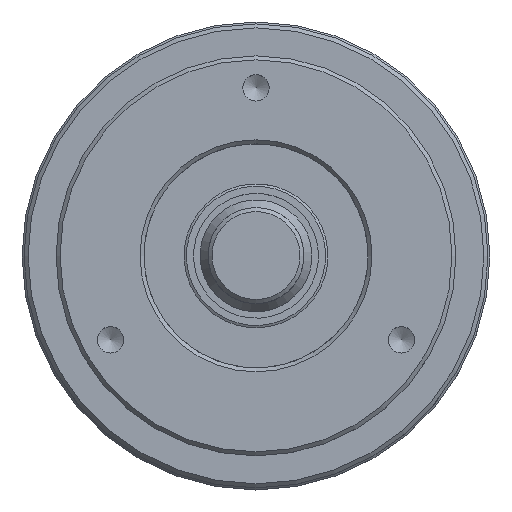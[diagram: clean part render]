
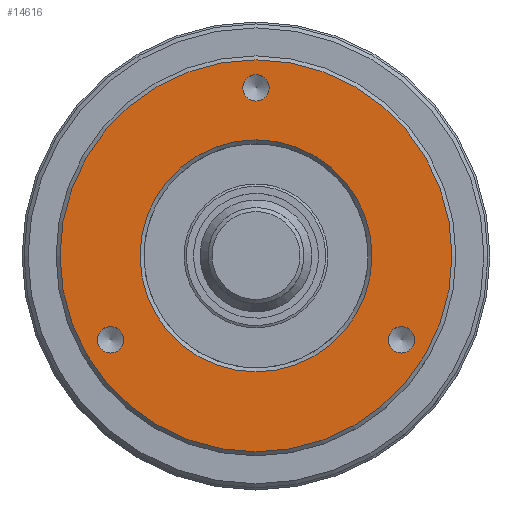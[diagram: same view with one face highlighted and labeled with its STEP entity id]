
A CAD part, top view. The second image highlights one B-rep face of the part: STEP entity #14616.
In plain terms, the highlighted planar face has unit normal (0, 0, 1).
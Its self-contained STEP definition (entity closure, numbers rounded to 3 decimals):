
#35 = EDGE_LOOP ( 'NONE', ( #1729 ) ) ;
#161 = FACE_BOUND ( 'NONE', #14994, .T. ) ;
#598 = CIRCLE ( 'NONE', #14232, 24.5 ) ;
#778 = EDGE_CURVE ( 'NONE', #3710, #3710, #6645, .T. ) ;
#953 = CARTESIAN_POINT ( 'NONE',  ( -14.5, 0., 0. ) ) ;
#1664 = ORIENTED_EDGE ( 'NONE', *, *, #778, .F. ) ;
#1729 = ORIENTED_EDGE ( 'NONE', *, *, #14112, .T. ) ;
#1942 = CIRCLE ( 'NONE', #13642, 1.65 ) ;
#2157 = CARTESIAN_POINT ( 'NONE',  ( -24.5, 0., 0. ) ) ;
#2854 = DIRECTION ( 'NONE',  ( 1., 0., 0. ) ) ;
#2943 = VERTEX_POINT ( 'NONE', #5205 ) ;
#3259 = AXIS2_PLACEMENT_3D ( 'NONE', #9685, #3916, #2854 ) ;
#3710 = VERTEX_POINT ( 'NONE', #13018 ) ;
#3832 = FACE_BOUND ( 'NONE', #12768, .T. ) ;
#3916 = DIRECTION ( 'NONE',  ( 0., 0., 1. ) ) ;
#4125 = DIRECTION ( 'NONE',  ( -1., 0., 0. ) ) ;
#4740 = PLANE ( 'NONE',  #13793 ) ;
#4891 = DIRECTION ( 'NONE',  ( 0., 0., -1. ) ) ;
#5205 = CARTESIAN_POINT ( 'NONE',  ( 19.837, -10.5, 0. ) ) ;
#5259 = CARTESIAN_POINT ( 'NONE',  ( 0., 0., 0. ) ) ;
#6376 = DIRECTION ( 'NONE',  ( -1., 0., 0. ) ) ;
#6644 = CARTESIAN_POINT ( 'NONE',  ( 18.187, -10.5, 0. ) ) ;
#6645 = CIRCLE ( 'NONE', #3259, 1.65 ) ;
#6787 = DIRECTION ( 'NONE',  ( 0., 0., 1. ) ) ;
#6850 = CIRCLE ( 'NONE', #7091, 1.65 ) ;
#7091 = AXIS2_PLACEMENT_3D ( 'NONE', #6644, #6787, #12382 ) ;
#7497 = VERTEX_POINT ( 'NONE', #13312 ) ;
#7586 = DIRECTION ( 'NONE',  ( 1., 0., 0. ) ) ;
#7660 = CARTESIAN_POINT ( 'NONE',  ( 0., 21., 0. ) ) ;
#7811 = ORIENTED_EDGE ( 'NONE', *, *, #11578, .T. ) ;
#8367 = FACE_OUTER_BOUND ( 'NONE', #10590, .T. ) ;
#8679 = CARTESIAN_POINT ( 'NONE',  ( 0., 0., 0. ) ) ;
#8922 = VERTEX_POINT ( 'NONE', #2157 ) ;
#9014 = EDGE_CURVE ( 'NONE', #7497, #7497, #1942, .T. ) ;
#9598 = FACE_BOUND ( 'NONE', #35, .T. ) ;
#9685 = CARTESIAN_POINT ( 'NONE',  ( -18.187, -10.5, 0. ) ) ;
#9893 = DIRECTION ( 'NONE',  ( 0., 0., -1. ) ) ;
#9976 = EDGE_CURVE ( 'NONE', #2943, #2943, #6850, .T. ) ;
#10590 = EDGE_LOOP ( 'NONE', ( #7811 ) ) ;
#11080 = CIRCLE ( 'NONE', #14279, 14.5 ) ;
#11187 = ORIENTED_EDGE ( 'NONE', *, *, #9014, .F. ) ;
#11578 = EDGE_CURVE ( 'NONE', #8922, #8922, #598, .T. ) ;
#11612 = EDGE_LOOP ( 'NONE', ( #1664 ) ) ;
#11821 = FACE_BOUND ( 'NONE', #11612, .T. ) ;
#12145 = DIRECTION ( 'NONE',  ( 0., 0., 1. ) ) ;
#12249 = DIRECTION ( 'NONE',  ( 0., 0., 1. ) ) ;
#12382 = DIRECTION ( 'NONE',  ( 1., 0., 0. ) ) ;
#12768 = EDGE_LOOP ( 'NONE', ( #13956 ) ) ;
#13018 = CARTESIAN_POINT ( 'NONE',  ( -16.537, -10.5, 0. ) ) ;
#13066 = DIRECTION ( 'NONE',  ( -1., 0., 0. ) ) ;
#13312 = CARTESIAN_POINT ( 'NONE',  ( 1.65, 21., 0. ) ) ;
#13498 = CARTESIAN_POINT ( 'NONE',  ( 0., 14., 0. ) ) ;
#13610 = VERTEX_POINT ( 'NONE', #953 ) ;
#13642 = AXIS2_PLACEMENT_3D ( 'NONE', #7660, #12249, #7586 ) ;
#13793 = AXIS2_PLACEMENT_3D ( 'NONE', #13498, #9893, #6376 ) ;
#13956 = ORIENTED_EDGE ( 'NONE', *, *, #9976, .F. ) ;
#14112 = EDGE_CURVE ( 'NONE', #13610, #13610, #11080, .T. ) ;
#14232 = AXIS2_PLACEMENT_3D ( 'NONE', #5259, #12145, #4125 ) ;
#14279 = AXIS2_PLACEMENT_3D ( 'NONE', #8679, #4891, #13066 ) ;
#14616 = ADVANCED_FACE ( 'NONE', ( #9598, #8367, #11821, #3832, #161 ), #4740, .F. ) ;
#14994 = EDGE_LOOP ( 'NONE', ( #11187 ) ) ;
